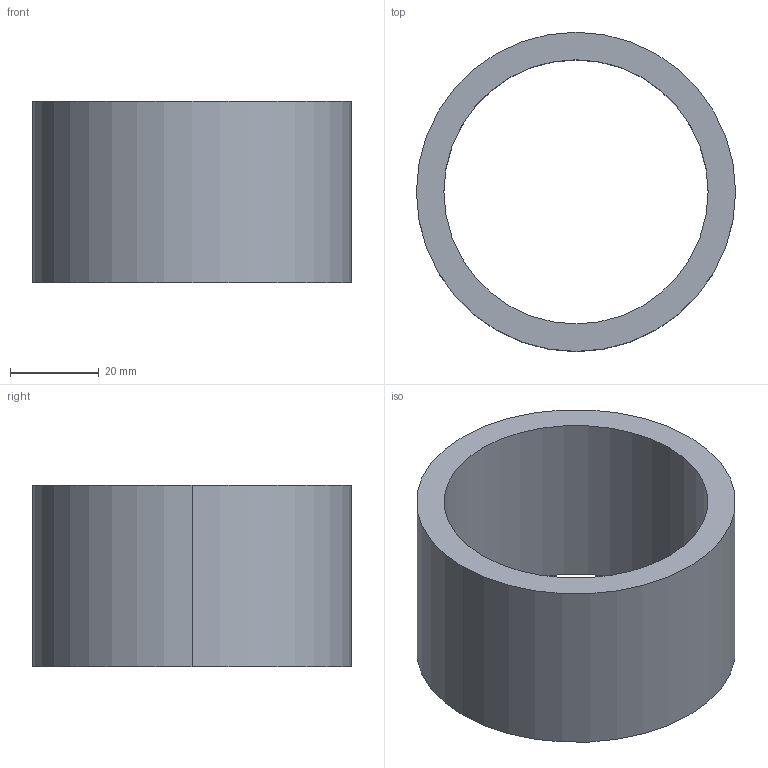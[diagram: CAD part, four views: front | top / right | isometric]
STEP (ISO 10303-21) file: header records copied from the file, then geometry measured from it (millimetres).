
FILE_DESCRIPTION (( 'STEP AP203' ), '1' );
FILE_NAME ('jsumo tyre.STEP', '2025-10-13T11:03:34', ( '' ), ( '' ), 'SwSTEP 2.0', 'SolidWorks 2023', '' );
FILE_SCHEMA (( 'CONFIG_CONTROL_DESIGN' ));
Length unit declared in the file: millimetre
Products named in the file (1): jsumo tyre
Bounding box: 72 x 72 x 41 mm (x, y, z)
Volume: 52547.4 mm3; surface area: 19514.1 mm2
Topology: 1 solids, 1 shells, 6 faces, 12 edges, 8 vertices
Faces by surface type: cylinder 4, plane 2
Entity records: 245 total; most frequent: DIRECTION 34, CARTESIAN_POINT 27, ORIENTED_EDGE 24, AXIS2_PLACEMENT_3D 15, EDGE_CURVE 12, VERTEX_POINT 8, CIRCLE 8, PERSON_AND_ORGANIZATION 8
